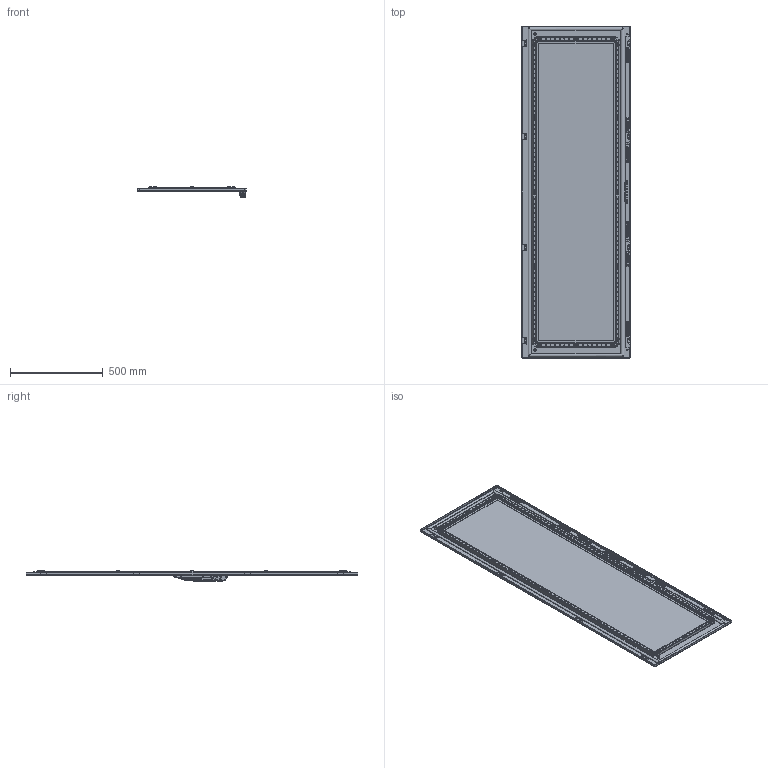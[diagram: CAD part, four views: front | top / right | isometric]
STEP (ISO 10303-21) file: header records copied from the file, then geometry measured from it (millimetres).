
FILE_DESCRIPTION(('STEP AP203'), '1');
FILE_NAME('Äâåðü îáçîðíàÿ ñî ñòåêëîì 1800õ600 ìì OptiBox M 419779 ÊÝÀÇ', '', ('UNSPECIFIED'), ('UNSPECIFIED'), 'C3D Converter', 'C3D Toolkit', '');
FILE_SCHEMA(('CONFIG_CONTROL_DESIGN'));
Length unit declared in the file: millimetre
Bounding box: 586.4 x 1786.4 x 55.92 mm (x, y, z)
Volume: 4851011.4 mm3; surface area: 3424587.9 mm2
Topology: 91 solids, 91 shells, 6984 faces, 17607 edges, 10573 vertices
Faces by surface type: plane 2936, cylinder 2398, bspline 656, sphere 437, torus 322, cone 235
Full cylindrical faces by diameter (mm): 0.75 x20, 1 x32, 1.3 x11, 1.6 x4, 2.3 x2, 2.6 x1, 3.2 x2, 4 x8, 4.2 x9, 4.3 x2, 4.4 x3, 4.5 x6, 4.6 x160, 4.981 x1, 5 x20, 5.2 x3, 5.4 x1, 5.8 x2, 6 x30, 6.3 x1, 6.4 x16, 7 x8, 7.5 x24, 7.7 x5, 8 x20, 8.5 x1, 9 x8, 9.3 x2, 9.381 x1, 10 x10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
Entity records: 364002 total; most frequent: CARTESIAN_POINT 150641, ORIENTED_EDGE 33266, DIRECTION 30982, EDGE_CURVE 16633, AXIS2_PLACEMENT_3D 11108, VERTEX_POINT 10541, LINE 8766, VECTOR 8766
